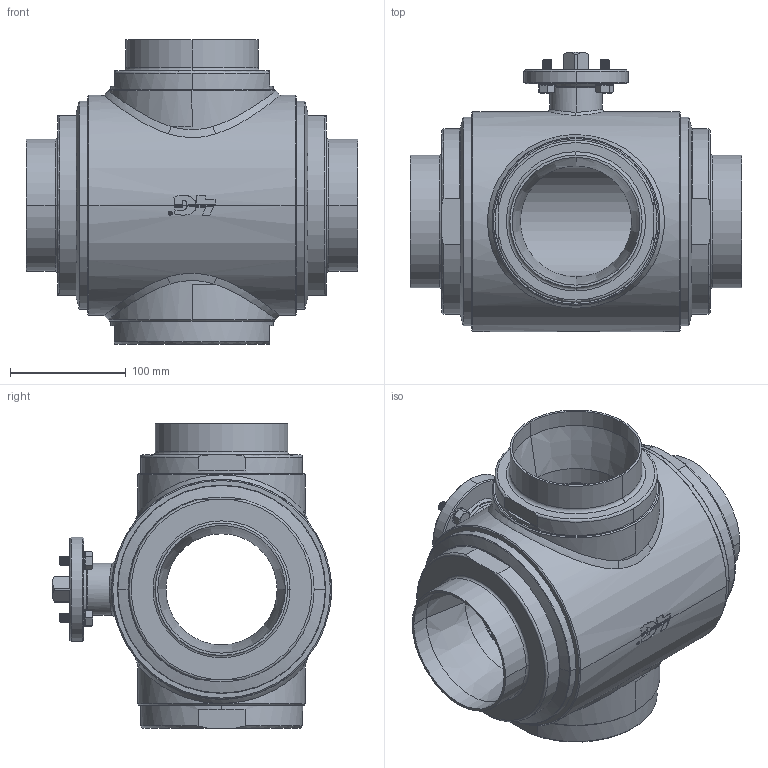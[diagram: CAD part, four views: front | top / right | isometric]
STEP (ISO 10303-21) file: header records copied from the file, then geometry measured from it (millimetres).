
FILE_DESCRIPTION((''),'2;1');
FILE_NAME('3030426Y410_SW0001','2026-10-02T07:50:21',('tecnico2'),('CDM Tecnoconsulting'),'CREO PARAMETRIC BY PTC INC, 2024063','CREO PARAMETRIC BY PTC INC, 2024063','');
FILE_SCHEMA(('CONFIG_CONTROL_DESIGN','SHAPE_APPEARANCE_LAYERS_GROUPS'));
Products named in the file (1): 3030426Y410_SW0001
Bounding box: 286 x 241 x 263 mm (x, y, z)
Volume: 4366403.4 mm3; surface area: 579404.4 mm2
Topology: 1 solids, 1 shells, 1455 faces, 3924 edges, 2541 vertices
Faces by surface type: plane 562, cylinder 433, cone 217, bspline 104, extrusion 93, torus 42, sphere 4
Entity records: 112182 total; most frequent: CARTESIAN_POINT 55516, ORIENTED_EDGE 7832, DIRECTION 6114, PRESENTATION_STYLE_ASSIGNMENT 5465, STYLED_ITEM 4010, CURVE_STYLE 4009, EDGE_CURVE 3916, VERTEX_POINT 2541
